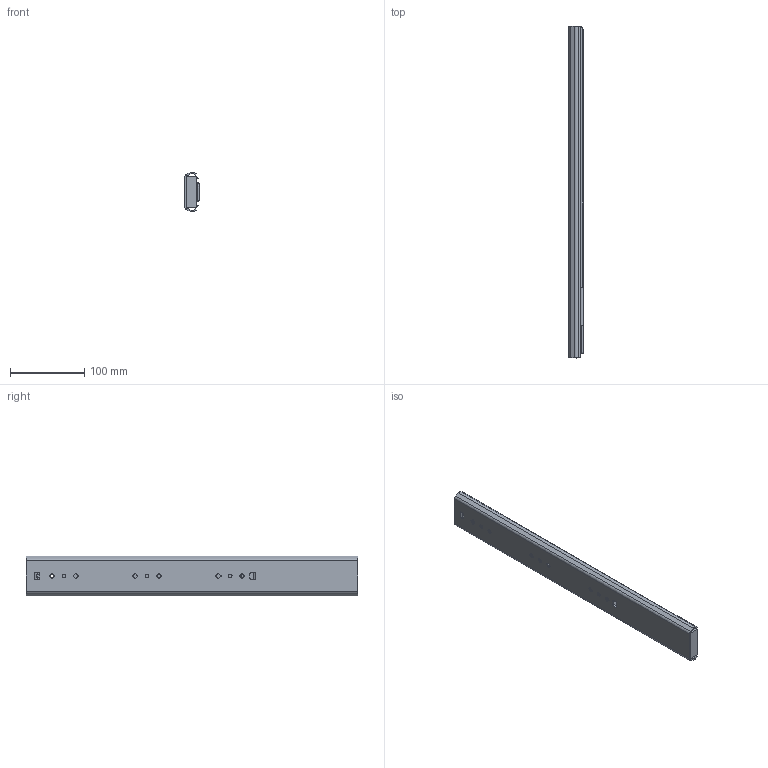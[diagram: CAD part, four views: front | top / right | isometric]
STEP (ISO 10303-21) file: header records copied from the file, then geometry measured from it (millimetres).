
FILE_DESCRIPTION( ( 'Unknown' ), '1' );
FILE_NAME( 'W:/研發專區/RD19克怡/開發案/MSE4588 - 78036(76008+緩歸)/3D/450/78036-450.stp', 'Unknown', ( 'Unknown' ), ( 'Unknown' ), 'PSStep 14.0', 'Unknown', ' ' );
FILE_SCHEMA( ( 'AUTOMOTIVE_DESIGN { 1 0 10303 214 1 1 1 1 }' ) );
Length unit declared in the file: millimetre
Products named in the file (8): Assem1; P2-035; P5-079; H-417; P10-833; \X2\5916684\X0\; \X2\5167684\X0\; \X2\4E2D684\X0\
Assembly tree (7 placements, depth 2):
  Assem1
    P2-035
    P5-079
    H-417
    P10-833
    \X2\5916684\X0\
    \X2\5167684\X0\
    \X2\4E2D684\X0\
Bounding box: 19 x 447.2 x 53.59 mm (x, y, z)
Volume: 196430.7 mm3; surface area: 160267.6 mm2
Topology: 7 solids, 7 shells, 474 faces, 1360 edges, 895 vertices
Faces by surface type: cylinder 234, plane 173, cone 48, torus 13, sphere 4, bspline 2
Full cylindrical faces by diameter (mm): 2.5 x1, 3 x1, 4 x2, 5 x7
Entity records: 20975 total; most frequent: CARTESIAN_POINT 4295, DIRECTION 2781, ORIENTED_EDGE 2680, EDGE_CURVE 1340, AXIS2_PLACEMENT_3D 1079, VERTEX_POINT 887, LINE 623, VECTOR 623
